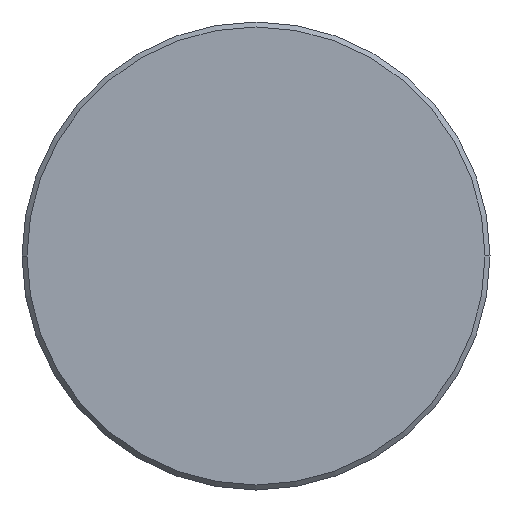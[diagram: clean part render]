
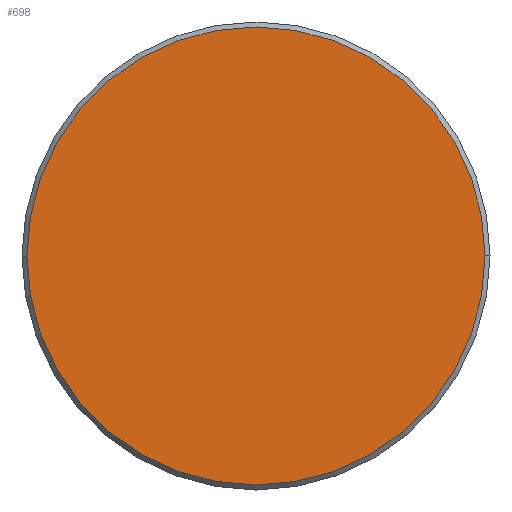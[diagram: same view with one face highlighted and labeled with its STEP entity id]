
A CAD part, front view. The second image highlights one B-rep face of the part: STEP entity #698.
In plain terms, the highlighted planar face has unit normal (0, -1, 0).
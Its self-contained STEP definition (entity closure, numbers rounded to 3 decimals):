
#79 = VERTEX_POINT ( 'NONE', #441 ) ;
#94 = DIRECTION ( 'NONE',  ( -1., 0., 0. ) ) ;
#111 = DIRECTION ( 'NONE',  ( -1., 0., 0. ) ) ;
#160 = PLANE ( 'NONE',  #525 ) ;
#183 = DIRECTION ( 'NONE',  ( 0., -1., 0. ) ) ;
#188 = CARTESIAN_POINT ( 'NONE',  ( 0., -6., 0. ) ) ;
#254 = CARTESIAN_POINT ( 'NONE',  ( 0., -6., 0. ) ) ;
#268 = DIRECTION ( 'NONE',  ( 0., -1., 0. ) ) ;
#336 = CIRCLE ( 'NONE', #488, 23. ) ;
#359 = VERTEX_POINT ( 'NONE', #672 ) ;
#424 = EDGE_CURVE ( 'NONE', #79, #359, #706, .T. ) ;
#432 = DIRECTION ( 'NONE',  ( 0., 1., 0. ) ) ;
#441 = CARTESIAN_POINT ( 'NONE',  ( -23., -6., 0. ) ) ;
#488 = AXIS2_PLACEMENT_3D ( 'NONE', #188, #183, #631 ) ;
#491 = EDGE_LOOP ( 'NONE', ( #644, #804 ) ) ;
#525 = AXIS2_PLACEMENT_3D ( 'NONE', #254, #432, #111 ) ;
#580 = FACE_OUTER_BOUND ( 'NONE', #491, .T. ) ;
#631 = DIRECTION ( 'NONE',  ( -1., 0., 0. ) ) ;
#644 = ORIENTED_EDGE ( 'NONE', *, *, #424, .T. ) ;
#645 = EDGE_CURVE ( 'NONE', #359, #79, #336, .T. ) ;
#672 = CARTESIAN_POINT ( 'NONE',  ( 23., -6., 0. ) ) ;
#698 = ADVANCED_FACE ( 'NONE', ( #580 ), #160, .F. ) ;
#706 = CIRCLE ( 'NONE', #746, 23. ) ;
#746 = AXIS2_PLACEMENT_3D ( 'NONE', #795, #268, #94 ) ;
#795 = CARTESIAN_POINT ( 'NONE',  ( 0., -6., 0. ) ) ;
#804 = ORIENTED_EDGE ( 'NONE', *, *, #645, .T. ) ;
